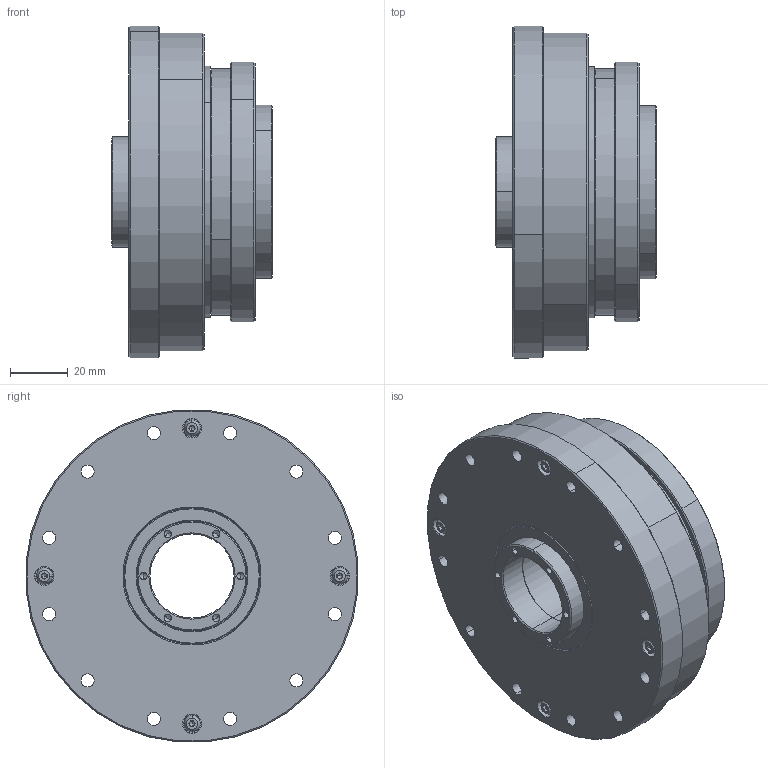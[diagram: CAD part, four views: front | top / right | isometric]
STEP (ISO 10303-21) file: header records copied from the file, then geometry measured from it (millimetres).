
FILE_DESCRIPTION (( 'STEP AP203' ), '1' );
FILE_NAME ('FHG-25-XXX-AH.STEP', '2019-04-23T05:50:21', ( '' ), ( '' ), 'SwSTEP 2.0', 'SolidWorks 2016', '' );
FILE_SCHEMA (( 'CONFIG_CONTROL_DESIGN' ));
Length unit declared in the file: millimetre
Products named in the file (1): FHG-25-XXX-AH
Bounding box: 55.5 x 114.56 x 114.56 mm (x, y, z)
Volume: 244963.1 mm3; surface area: 140079 mm2
Topology: 43 solids, 43 shells, 1300 faces, 3379 edges, 1960 vertices
Faces by surface type: cylinder 447, cone 308, plane 303, bspline 206, torus 36
Entity records: 45994 total; most frequent: CARTESIAN_POINT 15562, DIRECTION 6601, ORIENTED_EDGE 6118, EDGE_CURVE 3059, AXIS2_PLACEMENT_3D 2747, VERTEX_POINT 1960, CIRCLE 1652, EDGE_LOOP 1621
